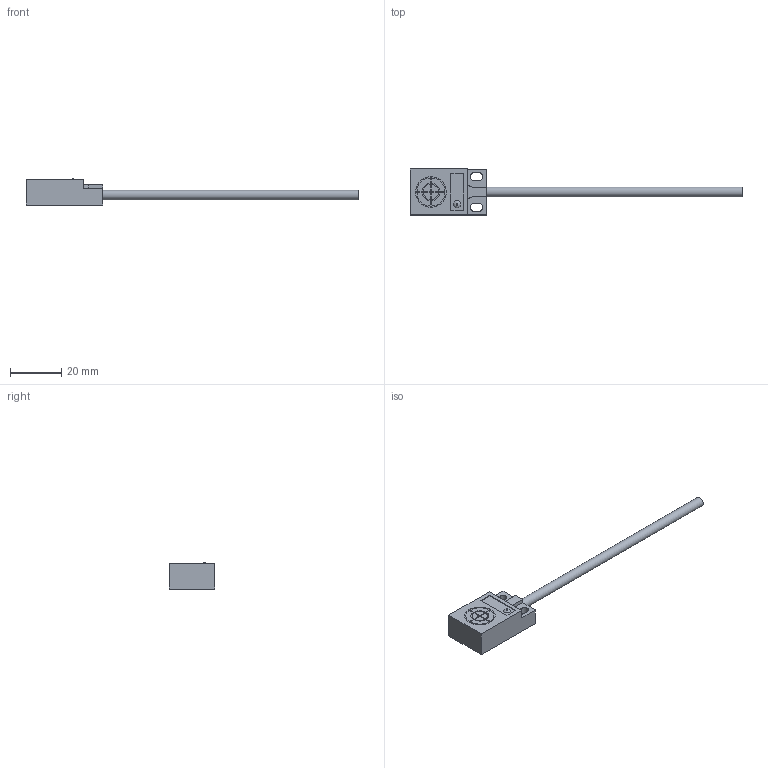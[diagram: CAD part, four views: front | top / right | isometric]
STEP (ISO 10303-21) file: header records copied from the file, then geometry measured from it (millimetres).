
FILE_DESCRIPTION(/* description */ (''),/* implementation_level */ '2;1');
FILE_NAME(/* name */ 'D:\fengjiarun\01)HUAYIFENG_宣传文件\01)HUAYIFENG_\X2\5BA34F2065874EF6\X0\_产品资料整合\03)产品3D文档\2021_产品3D数据\04)\X2\63A58FD14F20611F5668\X0\_3D\04-10)扁平型电容传感器_CSF_3D\CSF31-E04.stp',/* time_stamp */ '2021-08-16T22:17:41+08:00',/* author */ ('HYF-ID009'),/* organization */ (''),/* preprocessor_version */ 'ST-DEVELOPER v16.5',/* originating_system */ 'Autodesk Inventor 2017',/* authorisation */ '');
FILE_SCHEMA (('AUTOMOTIVE_DESIGN { 1 0 10303 214 3 1 1 }'));
Length unit declared in the file: millimetre
Products named in the file (1): CSF31-E04
Bounding box: 130 x 18 x 10.2 mm (x, y, z)
Volume: 5908.2 mm3; surface area: 3350 mm2
Topology: 1 solids, 1 shells, 75 faces, 181 edges, 121 vertices
Faces by surface type: plane 53, cylinder 21, bspline 1
Full cylindrical faces by diameter (mm): 2 x1, 3.8 x1, 12 x1
Entity records: 2260 total; most frequent: CARTESIAN_POINT 401, DIRECTION 374, ORIENTED_EDGE 354, EDGE_CURVE 177, LINE 128, VECTOR 128, AXIS2_PLACEMENT_3D 123, VERTEX_POINT 120
